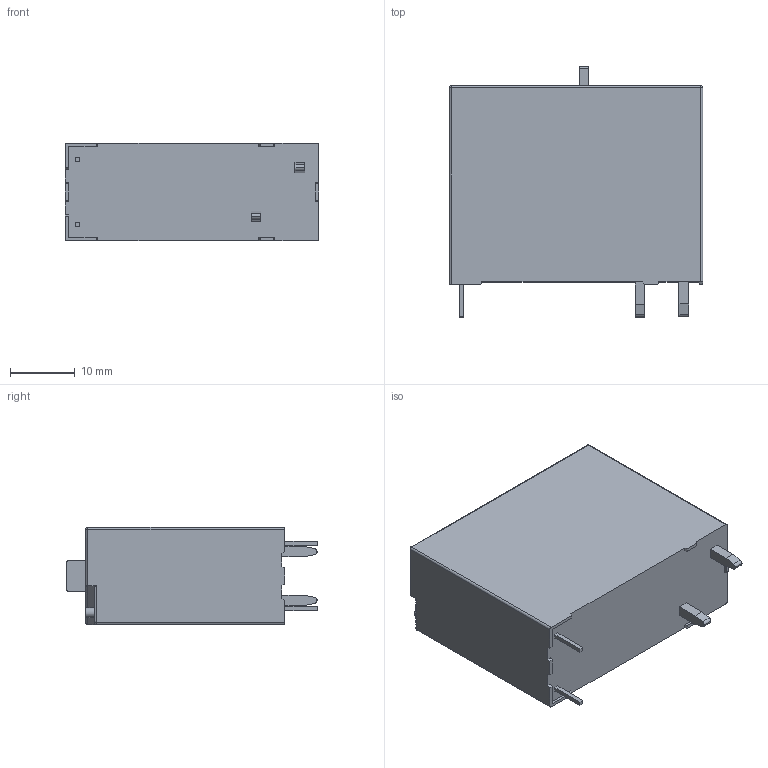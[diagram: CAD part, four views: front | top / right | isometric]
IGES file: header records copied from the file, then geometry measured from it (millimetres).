
Global section: preprocessor: SolidWorks 2014; organization: (C)Panasonic Corporation 2017; date: 170601.100328; units: millimetre
Bounding box: 39 x 38.5 x 15 mm (x, y, z)
Surface area: 4577.6 mm2 (no closed solid volume)
Topology: 0 solids, 0 shells, 93 faces, 614 edges, 610 vertices
Faces by surface type: bspline 68, revolution 25
